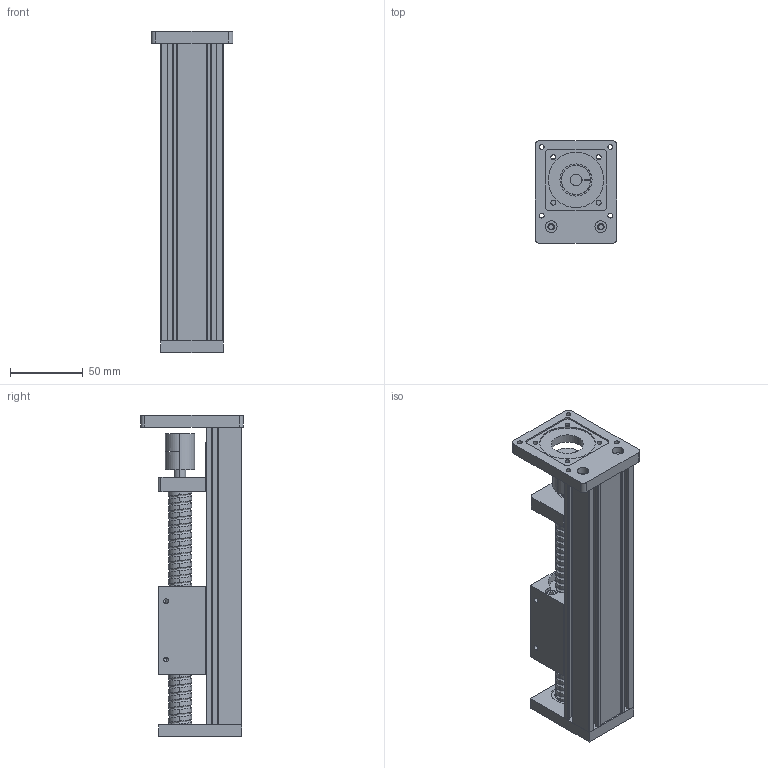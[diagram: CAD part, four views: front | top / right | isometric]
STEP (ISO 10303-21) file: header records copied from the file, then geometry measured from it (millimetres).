
FILE_DESCRIPTION (( 'STEP AP214' ), '1' );
FILE_NAME ('SGX盓傅.STEP', '2021-11-09T05:54:40', ( '' ), ( '' ), 'SwSTEP 2.0', 'SolidWorks 2020', '' );
FILE_SCHEMA (( 'AUTOMOTIVE_DESIGN' ));
Length unit declared in the file: millimetre
Products named in the file (14): 試俶薊粣ん; 1605佪裝; SGX粣創え; SGX倰第; SGX盓傅; SGX楊擘57; SGX賑輸; deep groove ball bearings gb_Rolling bearings 608 GB 276-94; hexagon socket head cap screws gb_GB_FASTENER_SCREWS_HSHCS M4X10-N; 12盄寢; 12酗盄寢賑輸; SGX盓傅え; 16蹟譫; hexagon socket head cap screws gb_GB_FASTENER_SCREWS_HSHCS M3X10-N
Assembly tree (28 placements, depth 2):
  SGX盓傅
    SGX倰第
    SGX粣創え
    hexagon socket head cap screws gb_GB_FASTENER_SCREWS_HSHCS M4X10-N  x4
    deep groove ball bearings gb_Rolling bearings 608 GB 276-94  x2
    12盄寢
    hexagon socket head cap screws gb_GB_FASTENER_SCREWS_HSHCS M3X10-N  x12
    12酗盄寢賑輸
    1605佪裝
    SGX賑輸
    16蹟譫
    SGX盓傅え
    試俶薊粣ん
    SGX楊擘57
Bounding box: 56 x 70.5 x 220 mm (x, y, z)
Volume: 288489.2 mm3; surface area: 145004.5 mm2
Topology: 28 solids, 28 shells, 1109 faces, 3135 edges, 1992 vertices
Faces by surface type: plane 440, cylinder 370, cone 130, torus 120, sphere 48, bspline 1
Entity records: 32843 total; most frequent: CARTESIAN_POINT 14445, ORIENTED_EDGE 3718, DIRECTION 3561, EDGE_CURVE 1859, AXIS2_PLACEMENT_3D 1355, VERTEX_POINT 1218, LINE 851, VECTOR 851
